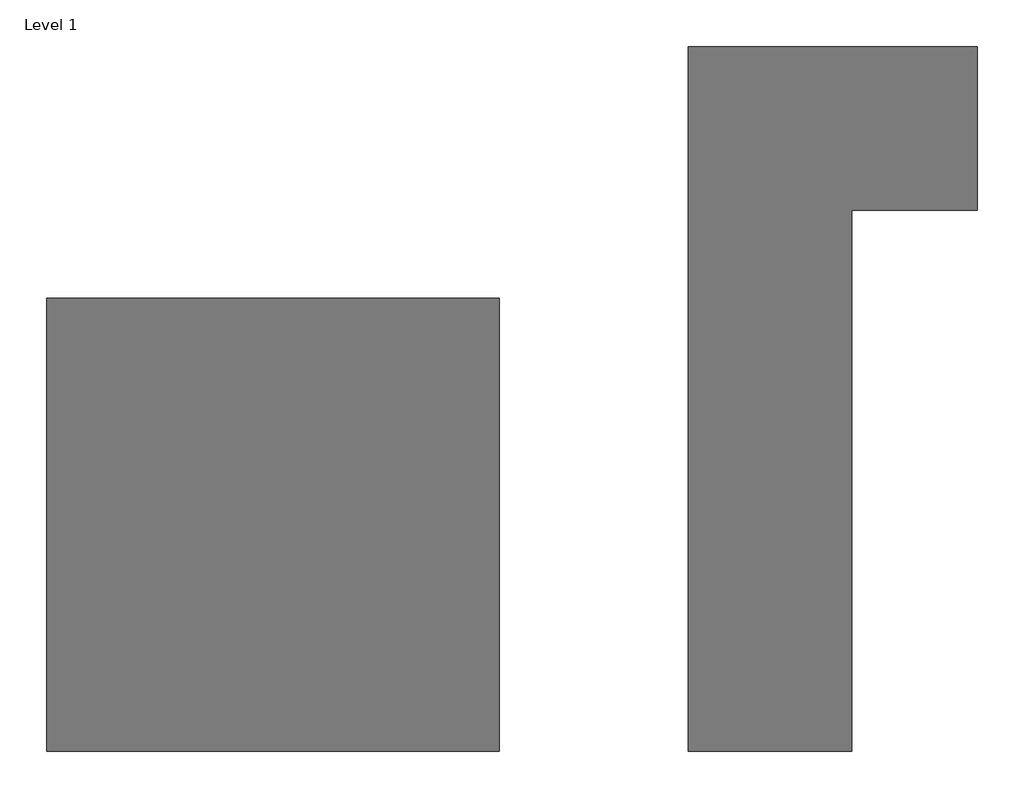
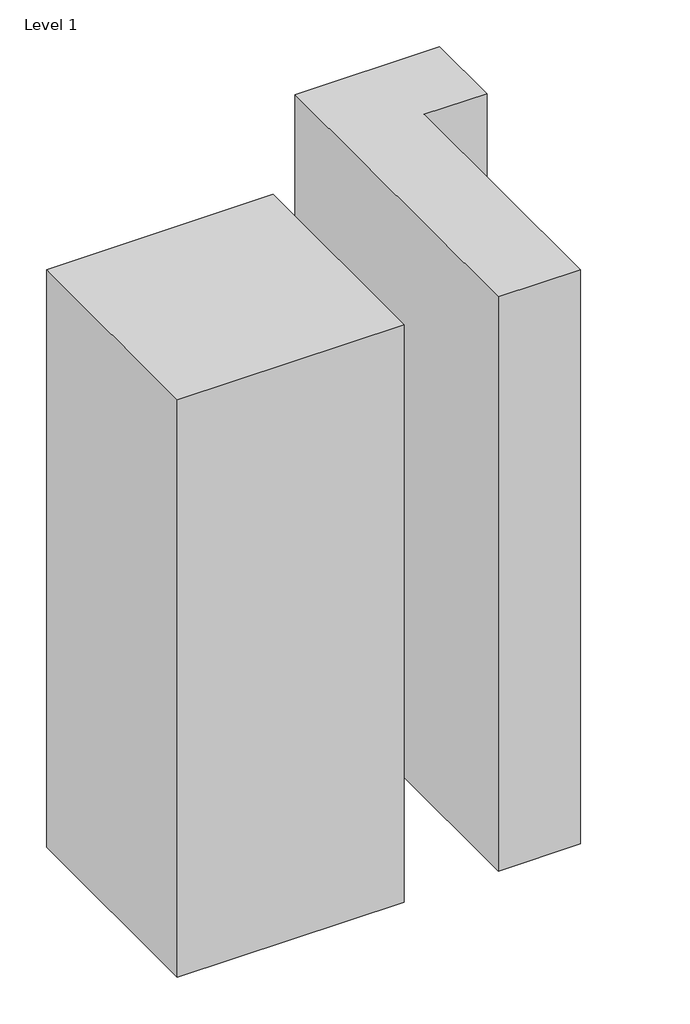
# One storey: 2 proxies.
"""IFC4 building model written with IfcOpenShell, lengths in millimetres."""

from ifc_helpers import new_model, si_unit, origin, origin_with_axes, place, context, project, spatial, polyline, outline, extrude, element, save

model = new_model("IFC4")

# Units and contexts
model_context = context("Model", 3, world=origin())
ifc_project = project(units=[si_unit("LENGTHUNIT", "METRE", prefix="MILLI")], contexts=[model_context])

# Site, building, storey
site = spatial("IfcSite", under=ifc_project)
building = spatial("IfcBuilding", under=site)
storey = spatial("IfcBuildingStorey", under=building, Name="Level 1", Elevation=0.0)

# Proxies
placement = place(None, origin())
element("IfcBuildingElementProxy", 1, Name="Building B1 : Building B1", ObjectType="Building B1 : Building B1", at=placement, inside=storey, context=model_context, shape_type="SweptSolid", body=[
    extrude(outline(polyline([(-9080.1937216, 75844.1235876), (25971.8062784, 75844.1235876), (25971.8062784, 56032.1235876), (10731.8062784, 56032.1235876), (10731.8062784, -9499.8764124), (-9080.1937216, -9499.8764124), (-9080.1937216, 75844.1235876)])), origin_with_axes(), (0.0, 0.0, 1.0), 146913.6),
])
element("IfcBuildingElementProxy", 2, Name="Existing Building : Existing Building", ObjectType="Existing Building : Existing Building", at=placement, inside=storey, context=model_context, shape_type="SweptSolid", body=[
    extrude(outline(polyline([(-86804.1937216, -9499.8764124), (-86804.1937216, 45364.1235876), (-31940.1937216, 45364.1235876), (-31940.1937216, -9499.8764124), (-86804.1937216, -9499.8764124)])), origin_with_axes(), (0.0, 0.0, 1.0), 147828.0),
])

save(model, "model.ifc")
